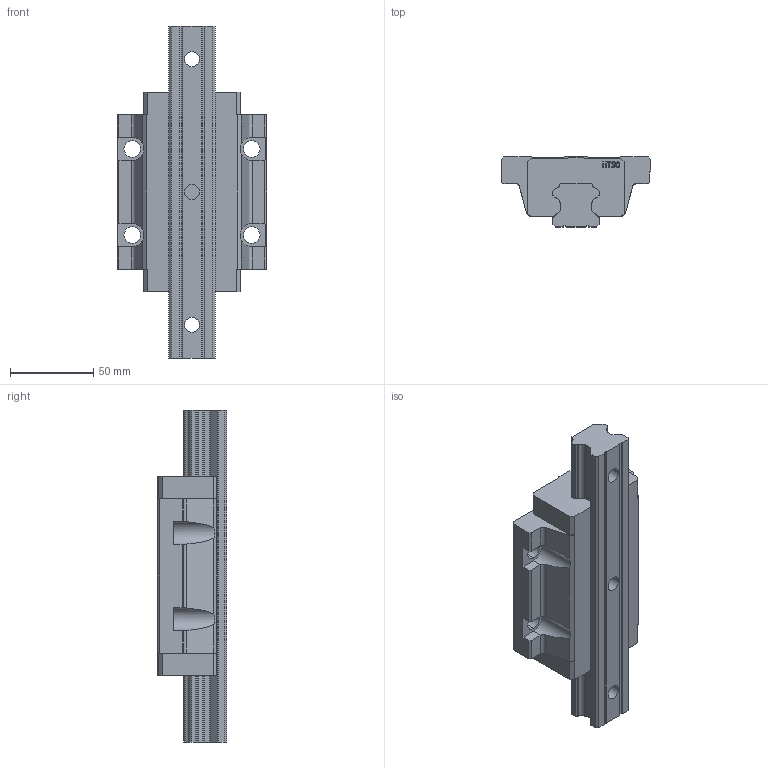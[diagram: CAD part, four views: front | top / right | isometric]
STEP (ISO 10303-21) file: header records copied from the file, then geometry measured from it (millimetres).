
FILE_DESCRIPTION (( 'STEP AP214' ), '1' );
FILE_NAME ('7.1011 Lineaarikelkka HTW30HA.STEP', '2026-03-11T11:15:33', ( '' ), ( '' ), 'SwSTEP 2.0', 'SolidWorks 2025', '' );
FILE_SCHEMA (( 'AUTOMOTIVE_DESIGN' ));
Length unit declared in the file: millimetre
Products named in the file (3): 7.1011 Lineaarikelkka HTW30HA; HTW30; HTR30
Assembly tree (2 placements, depth 2):
  7.1011 Lineaarikelkka HTW30HA
    HTW30
    HTR30
Bounding box: 90 x 42 x 200 mm (x, y, z)
Volume: 356059 mm3; surface area: 64276.2 mm2
Topology: 2 solids, 2 shells, 764 faces, 2166 edges, 1444 vertices
Faces by surface type: plane 667, cylinder 72, bspline 25
Entity records: 35393 total; most frequent: CARTESIAN_POINT 7160, ORIENTED_EDGE 4332, DIRECTION 3667, EDGE_CURVE 2166, VECTOR 1941, LINE 1941, VERTEX_POINT 1444, AXIS2_PLACEMENT_3D 863
